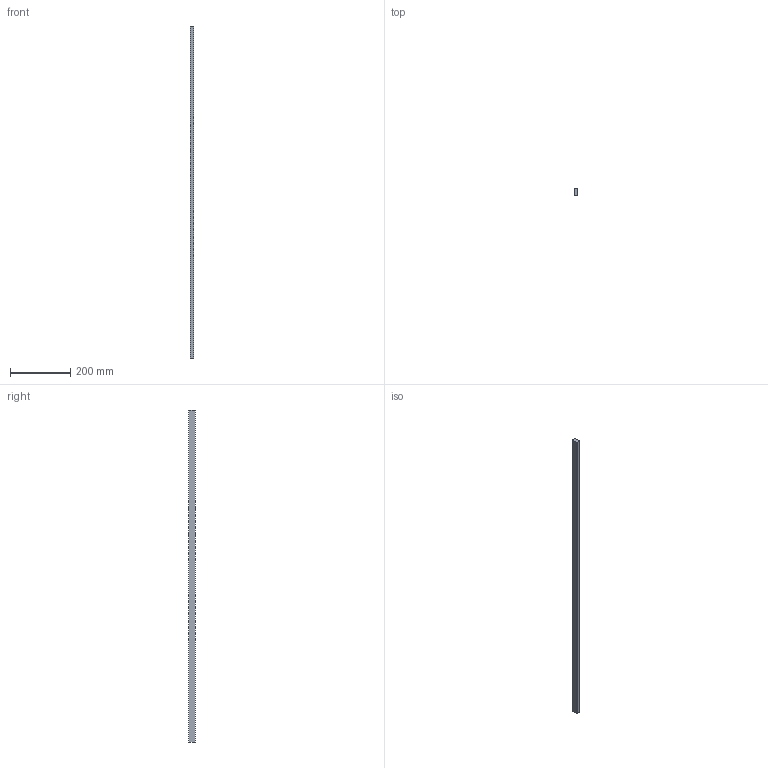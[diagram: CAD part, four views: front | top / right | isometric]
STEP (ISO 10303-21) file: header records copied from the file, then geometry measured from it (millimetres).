
FILE_DESCRIPTION (( 'STEP AP203' ), '1' );
FILE_NAME ('M01078.STEP', '2022-05-16T05:39:28', ( 'Users' ), ( 'Microsoft' ), 'SwSTEP 2.0', 'SolidWorks 2018', '' );
FILE_SCHEMA (( 'CONFIG_CONTROL_DESIGN' ));
Length unit declared in the file: millimetre
Products named in the file (1): M01078
Bounding box: 12.7 x 22.4 x 1100 mm (x, y, z)
Volume: 311983.8 mm3; surface area: 75898.7 mm2
Topology: 1 solids, 1 shells, 10 faces, 24 edges, 16 vertices
Faces by surface type: plane 6, cylinder 4
Entity records: 373 total; most frequent: DIRECTION 54, CARTESIAN_POINT 51, ORIENTED_EDGE 48, EDGE_CURVE 24, AXIS2_PLACEMENT_3D 19, VERTEX_POINT 16, VECTOR 16, LINE 16
